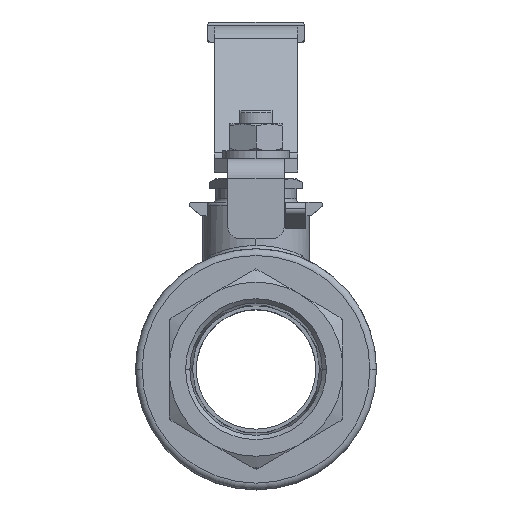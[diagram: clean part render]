
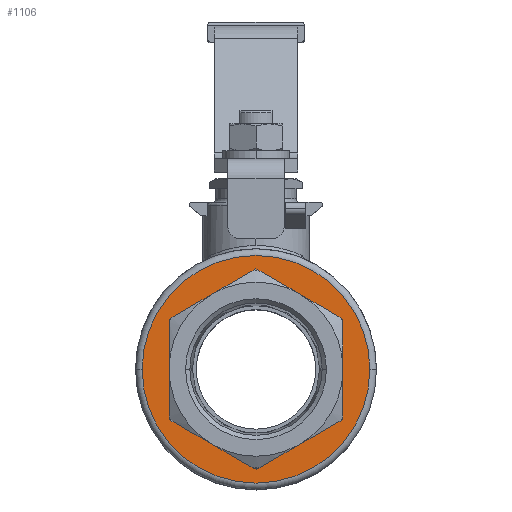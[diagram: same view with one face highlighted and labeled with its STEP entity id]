
A CAD part, top view. The second image highlights one B-rep face of the part: STEP entity #1106.
In plain terms, the highlighted planar face has unit normal (0, 0, 1).
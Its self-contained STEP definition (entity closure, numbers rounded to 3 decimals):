
#209 = CARTESIAN_POINT ( 'NONE',  ( 9.666, 0., 21. ) ) ;
#302 = PLANE ( 'NONE',  #6986 ) ;
#548 = ORIENTED_EDGE ( 'NONE', *, *, #937, .F. ) ;
#552 = EDGE_LOOP ( 'NONE', ( #548, #3225 ) ) ;
#563 = CIRCLE ( 'NONE', #3498, 9.666 ) ;
#860 = VERTEX_POINT ( 'NONE', #7185 ) ;
#937 = EDGE_CURVE ( 'NONE', #6649, #1291, #1419, .T. ) ;
#1106 = ADVANCED_FACE ( 'NONE', ( #7033, #7136 ), #302, .T. ) ;
#1110 = CIRCLE ( 'NONE', #5691, 17.011 ) ;
#1291 = VERTEX_POINT ( 'NONE', #1759 ) ;
#1419 = CIRCLE ( 'NONE', #6093, 9.666 ) ;
#1471 = EDGE_CURVE ( 'NONE', #860, #2091, #1110, .T. ) ;
#1602 = DIRECTION ( 'NONE',  ( -1., 0., 0. ) ) ;
#1759 = CARTESIAN_POINT ( 'NONE',  ( -9.666, 0., 21. ) ) ;
#1997 = DIRECTION ( 'NONE',  ( 1., 0., 0. ) ) ;
#2091 = VERTEX_POINT ( 'NONE', #3809 ) ;
#2135 = EDGE_LOOP ( 'NONE', ( #7236, #5712 ) ) ;
#2392 = DIRECTION ( 'NONE',  ( 0., 0., -1. ) ) ;
#2793 = DIRECTION ( 'NONE',  ( 0., 0., 1. ) ) ;
#3199 = CARTESIAN_POINT ( 'NONE',  ( 0., 0., 21. ) ) ;
#3225 = ORIENTED_EDGE ( 'NONE', *, *, #6469, .F. ) ;
#3413 = DIRECTION ( 'NONE',  ( -1., 0., 0. ) ) ;
#3498 = AXIS2_PLACEMENT_3D ( 'NONE', #3583, #2793, #1997 ) ;
#3583 = CARTESIAN_POINT ( 'NONE',  ( 0., 0., 21. ) ) ;
#3809 = CARTESIAN_POINT ( 'NONE',  ( -17.011, 0., 21. ) ) ;
#3949 = EDGE_CURVE ( 'NONE', #2091, #860, #4223, .T. ) ;
#4215 = DIRECTION ( 'NONE',  ( 0., 0., -1. ) ) ;
#4223 = CIRCLE ( 'NONE', #5719, 17.011 ) ;
#4446 = DIRECTION ( 'NONE',  ( 1., 0., 0. ) ) ;
#5234 = DIRECTION ( 'NONE',  ( 0., 0., 1. ) ) ;
#5691 = AXIS2_PLACEMENT_3D ( 'NONE', #5789, #4215, #3413 ) ;
#5700 = DIRECTION ( 'NONE',  ( 1., 0., 0. ) ) ;
#5712 = ORIENTED_EDGE ( 'NONE', *, *, #1471, .F. ) ;
#5719 = AXIS2_PLACEMENT_3D ( 'NONE', #3199, #2392, #1602 ) ;
#5789 = CARTESIAN_POINT ( 'NONE',  ( 0., 0., 21. ) ) ;
#6024 = CARTESIAN_POINT ( 'NONE',  ( 0., 0., 21. ) ) ;
#6093 = AXIS2_PLACEMENT_3D ( 'NONE', #6024, #5234, #4446 ) ;
#6469 = EDGE_CURVE ( 'NONE', #1291, #6649, #563, .T. ) ;
#6491 = DIRECTION ( 'NONE',  ( 0., 0., 1. ) ) ;
#6649 = VERTEX_POINT ( 'NONE', #209 ) ;
#6986 = AXIS2_PLACEMENT_3D ( 'NONE', #7281, #6491, #5700 ) ;
#7033 = FACE_BOUND ( 'NONE', #552, .T. ) ;
#7136 = FACE_OUTER_BOUND ( 'NONE', #2135, .T. ) ;
#7185 = CARTESIAN_POINT ( 'NONE',  ( 17.011, 0., 21. ) ) ;
#7236 = ORIENTED_EDGE ( 'NONE', *, *, #3949, .F. ) ;
#7281 = CARTESIAN_POINT ( 'NONE',  ( 0., 0., 21. ) ) ;
